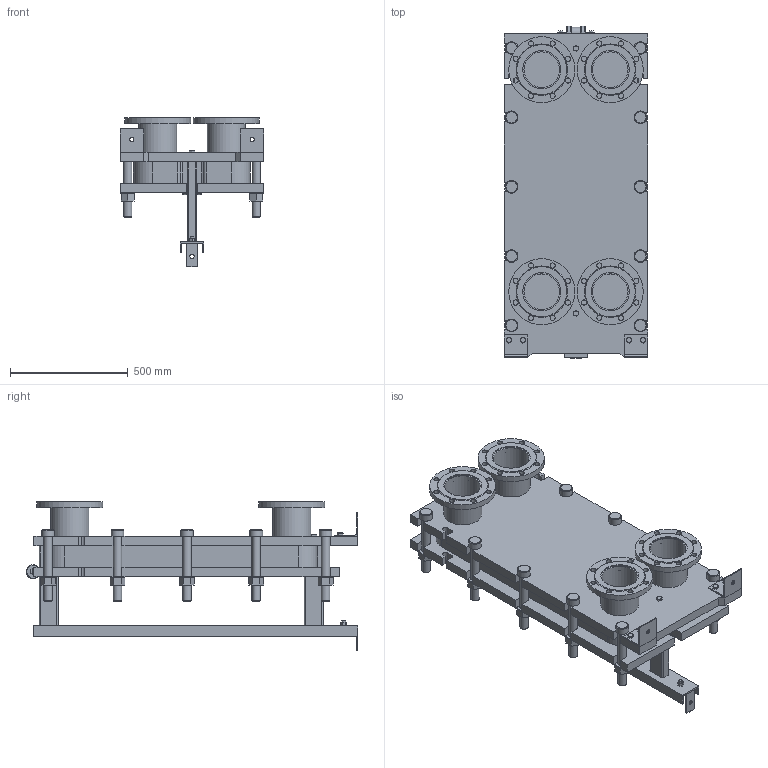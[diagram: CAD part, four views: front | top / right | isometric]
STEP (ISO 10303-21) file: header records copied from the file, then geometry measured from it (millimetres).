
FILE_DESCRIPTION(/* description */ (''),/* implementation_level */ '2;1');
FILE_NAME(/* name */ 'C:\Users\zhuro\Desktop\ENCO\TO\ЭН-041\ЭН-0,5-041-26-1.stp',/* time_stamp */ '2022-06-06T10:50:22+03:00',/* author */ ('zhuro'),/* organization */ (''),/* preprocessor_version */ 'ST-DEVELOPER v18.1',/* originating_system */ 'Autodesk Inventor 2022',/* authorisation */ '');
FILE_SCHEMA (('AUTOMOTIVE_DESIGN { 1 0 10303 214 3 1 1 }'));
Length unit declared in the file: millimetre
Products named in the file (1): ЭН-0,5-041-26-1
Bounding box: 610 x 1406.5 x 635 mm (x, y, z)
Volume: 125723606.5 mm3; surface area: 7392871.8 mm2
Topology: 52 solids, 52 shells, 711 faces, 1696 edges, 1094 vertices
Faces by surface type: plane 487, cylinder 177, cone 41, torus 6
Full cylindrical faces by diameter (mm): 8 x4, 10 x2, 16 x8, 18 x3, 22 x32, 36 x24, 50 x1, 54 x10, 60 x12, 151 x4, 161 x8, 280 x4
Entity records: 22667 total; most frequent: CARTESIAN_POINT 5230, DIRECTION 3644, ORIENTED_EDGE 3392, EDGE_CURVE 1696, AXIS2_PLACEMENT_3D 1272, LINE 1100, VECTOR 1100, VERTEX_POINT 1094
